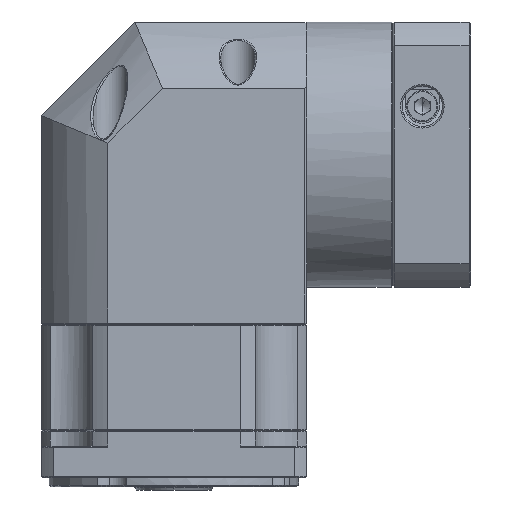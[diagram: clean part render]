
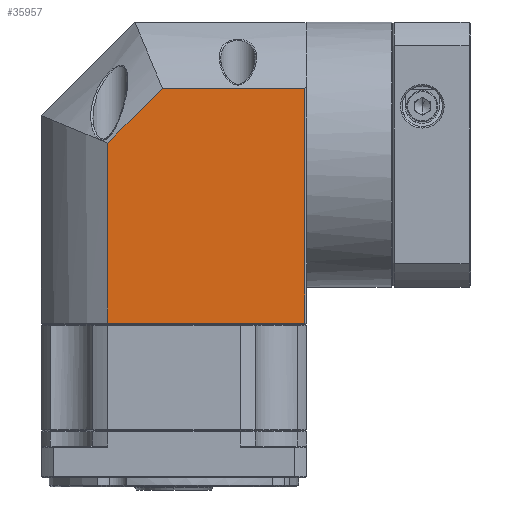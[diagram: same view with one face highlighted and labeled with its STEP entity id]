
A CAD part, front view. The second image highlights one B-rep face of the part: STEP entity #35957.
In plain terms, the highlighted planar face has unit normal (0, -1, 0).
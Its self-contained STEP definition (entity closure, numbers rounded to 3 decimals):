
#2781 = CARTESIAN_POINT ( 'NONE',  ( 28.292, 113.805, 31.176 ) ) ;
#4555 = LINE ( 'NONE', #62633, #139663 ) ;
#5549 = CARTESIAN_POINT ( 'NONE',  ( 91.506, 113.805, 69.993 ) ) ;
#7054 = EDGE_CURVE ( 'NONE', #139864, #81132, #4555, .T. ) ;
#7155 = LINE ( 'NONE', #5549, #107483 ) ;
#12327 = EDGE_LOOP ( 'NONE', ( #144792, #167284, #76685, #161739, #24490 ) ) ;
#15768 = VECTOR ( 'NONE', #23820, 1000. ) ;
#16202 = VERTEX_POINT ( 'NONE', #79744 ) ;
#18200 = CARTESIAN_POINT ( 'NONE',  ( 28.292, 113.805, 69.993 ) ) ;
#18730 = DIRECTION ( 'NONE',  ( 0., 0., -1. ) ) ;
#19104 = DIRECTION ( 'NONE',  ( 0., 1., 0. ) ) ;
#23820 = DIRECTION ( 'NONE',  ( 1., 0., 0. ) ) ;
#24346 = DIRECTION ( 'NONE',  ( 1., 0., 0. ) ) ;
#24490 = ORIENTED_EDGE ( 'NONE', *, *, #74521, .F. ) ;
#29618 = DIRECTION ( 'NONE',  ( 0.707, 0., 0.707 ) ) ;
#34908 = FACE_OUTER_BOUND ( 'NONE', #12327, .T. ) ;
#35957 = ADVANCED_FACE ( 'NONE', ( #34908 ), #41304, .F. ) ;
#37100 = CARTESIAN_POINT ( 'NONE',  ( 45.823, 113.805, 48.707 ) ) ;
#41304 = PLANE ( 'NONE',  #87096 ) ;
#57422 = CARTESIAN_POINT ( 'NONE',  ( 28.292, 113.805, 31.176 ) ) ;
#62633 = CARTESIAN_POINT ( 'NONE',  ( 92.006, 113.805, 48.707 ) ) ;
#64603 = CARTESIAN_POINT ( 'NONE',  ( 28.292, 113.805, -26.507 ) ) ;
#72766 = EDGE_CURVE ( 'NONE', #84676, #139864, #104513, .T. ) ;
#73889 = VERTEX_POINT ( 'NONE', #64603 ) ;
#74521 = EDGE_CURVE ( 'NONE', #73889, #84676, #74655, .T. ) ;
#74655 = LINE ( 'NONE', #18200, #144303 ) ;
#76685 = ORIENTED_EDGE ( 'NONE', *, *, #7054, .F. ) ;
#79744 = CARTESIAN_POINT ( 'NONE',  ( 91.506, 113.805, -26.507 ) ) ;
#81132 = VERTEX_POINT ( 'NONE', #106229 ) ;
#84676 = VERTEX_POINT ( 'NONE', #57422 ) ;
#85303 = LINE ( 'NONE', #115361, #15768 ) ;
#87096 = AXIS2_PLACEMENT_3D ( 'NONE', #97424, #19104, #110642 ) ;
#97424 = CARTESIAN_POINT ( 'NONE',  ( 92.006, 113.805, 69.993 ) ) ;
#104513 = LINE ( 'NONE', #2781, #165975 ) ;
#106229 = CARTESIAN_POINT ( 'NONE',  ( 91.506, 113.805, 48.707 ) ) ;
#107483 = VECTOR ( 'NONE', #18730, 1000. ) ;
#110642 = DIRECTION ( 'NONE',  ( -1., 0., 0. ) ) ;
#115361 = CARTESIAN_POINT ( 'NONE',  ( 92.006, 113.805, -26.507 ) ) ;
#122298 = DIRECTION ( 'NONE',  ( 0., 0., 1. ) ) ;
#137681 = EDGE_CURVE ( 'NONE', #81132, #16202, #7155, .T. ) ;
#139663 = VECTOR ( 'NONE', #24346, 1000. ) ;
#139864 = VERTEX_POINT ( 'NONE', #37100 ) ;
#144303 = VECTOR ( 'NONE', #122298, 1000. ) ;
#144792 = ORIENTED_EDGE ( 'NONE', *, *, #156259, .T. ) ;
#156259 = EDGE_CURVE ( 'NONE', #73889, #16202, #85303, .T. ) ;
#161739 = ORIENTED_EDGE ( 'NONE', *, *, #72766, .F. ) ;
#165975 = VECTOR ( 'NONE', #29618, 1000. ) ;
#167284 = ORIENTED_EDGE ( 'NONE', *, *, #137681, .F. ) ;
